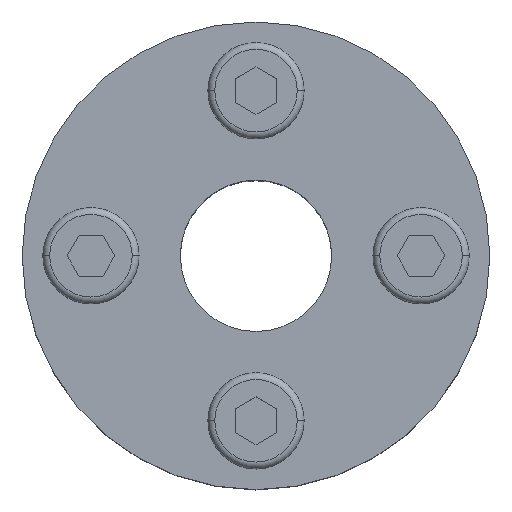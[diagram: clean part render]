
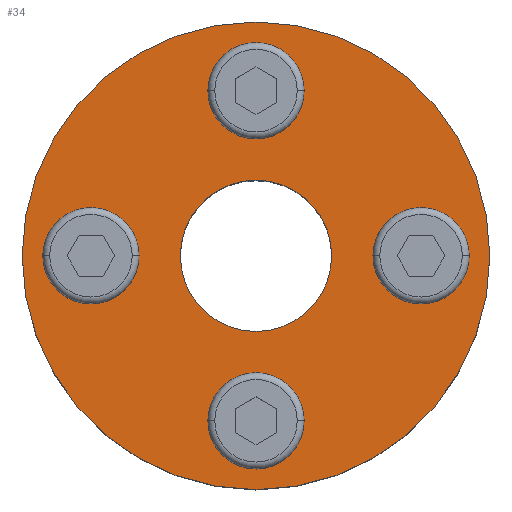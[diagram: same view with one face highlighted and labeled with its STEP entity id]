
A CAD part, top view. The second image highlights one B-rep face of the part: STEP entity #34.
In plain terms, the highlighted planar face has unit normal (0, 0, 1).
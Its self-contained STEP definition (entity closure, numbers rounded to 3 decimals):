
#16 = ORIENTED_EDGE ( 'NONE', *, *, #1409, .F. ) ;
#34 = ADVANCED_FACE ( 'NONE', ( #1622, #207, #1278, #124, #586, #833 ), #1436, .F. ) ;
#51 = ORIENTED_EDGE ( 'NONE', *, *, #818, .F. ) ;
#106 = ORIENTED_EDGE ( 'NONE', *, *, #1116, .F. ) ;
#124 = FACE_BOUND ( 'NONE', #1474, .T. ) ;
#128 = CARTESIAN_POINT ( 'NONE',  ( 12., 0., 0. ) ) ;
#133 = CIRCLE ( 'NONE', #1275, 5.5 ) ;
#175 = VERTEX_POINT ( 'NONE', #1470 ) ;
#182 = CARTESIAN_POINT ( 'NONE',  ( -3.5, 12., 0. ) ) ;
#186 = DIRECTION ( 'NONE',  ( -1., 0., 0. ) ) ;
#207 = FACE_BOUND ( 'NONE', #1064, .T. ) ;
#227 = CARTESIAN_POINT ( 'NONE',  ( 3.5, -12., 0. ) ) ;
#240 = CARTESIAN_POINT ( 'NONE',  ( -8.5, 0., 0. ) ) ;
#246 = CIRCLE ( 'NONE', #919, 3.5 ) ;
#286 = CARTESIAN_POINT ( 'NONE',  ( 0., 0., 0. ) ) ;
#289 = EDGE_LOOP ( 'NONE', ( #51, #1626 ) ) ;
#295 = CIRCLE ( 'NONE', #467, 3.5 ) ;
#355 = CIRCLE ( 'NONE', #1452, 3.5 ) ;
#359 = CARTESIAN_POINT ( 'NONE',  ( -15.5, 0., 0. ) ) ;
#374 = DIRECTION ( 'NONE',  ( -1., 0., 0. ) ) ;
#378 = AXIS2_PLACEMENT_3D ( 'NONE', #1083, #461, #842 ) ;
#402 = VERTEX_POINT ( 'NONE', #694 ) ;
#408 = DIRECTION ( 'NONE',  ( 1., 0., 0. ) ) ;
#423 = ORIENTED_EDGE ( 'NONE', *, *, #1295, .F. ) ;
#435 = EDGE_LOOP ( 'NONE', ( #760, #1195 ) ) ;
#459 = DIRECTION ( 'NONE',  ( -1., 0., 0. ) ) ;
#461 = DIRECTION ( 'NONE',  ( 0., 0., 1. ) ) ;
#467 = AXIS2_PLACEMENT_3D ( 'NONE', #1211, #698, #186 ) ;
#472 = EDGE_CURVE ( 'NONE', #1210, #402, #246, .T. ) ;
#496 = AXIS2_PLACEMENT_3D ( 'NONE', #765, #1528, #892 ) ;
#498 = CARTESIAN_POINT ( 'NONE',  ( -12., 0., 0. ) ) ;
#528 = CARTESIAN_POINT ( 'NONE',  ( -3.5, -12., 0. ) ) ;
#540 = AXIS2_PLACEMENT_3D ( 'NONE', #613, #1529, #1011 ) ;
#542 = CARTESIAN_POINT ( 'NONE',  ( -12., 0., 0. ) ) ;
#586 = FACE_BOUND ( 'NONE', #1514, .T. ) ;
#598 = CARTESIAN_POINT ( 'NONE',  ( 5.5, 0., 0. ) ) ;
#599 = VERTEX_POINT ( 'NONE', #598 ) ;
#613 = CARTESIAN_POINT ( 'NONE',  ( 0., -12., 0. ) ) ;
#617 = EDGE_CURVE ( 'NONE', #1366, #990, #1667, .T. ) ;
#625 = DIRECTION ( 'NONE',  ( 0., 0., 1. ) ) ;
#630 = CARTESIAN_POINT ( 'NONE',  ( 17., 0., 0. ) ) ;
#652 = EDGE_CURVE ( 'NONE', #402, #1210, #1466, .T. ) ;
#694 = CARTESIAN_POINT ( 'NONE',  ( 3.5, 12., 0. ) ) ;
#698 = DIRECTION ( 'NONE',  ( 0., 0., 1. ) ) ;
#727 = CARTESIAN_POINT ( 'NONE',  ( 0., 0., 0. ) ) ;
#730 = EDGE_CURVE ( 'NONE', #858, #745, #735, .T. ) ;
#735 = CIRCLE ( 'NONE', #1146, 3.5 ) ;
#744 = CIRCLE ( 'NONE', #1174, 3.5 ) ;
#745 = VERTEX_POINT ( 'NONE', #240 ) ;
#760 = ORIENTED_EDGE ( 'NONE', *, *, #472, .F. ) ;
#765 = CARTESIAN_POINT ( 'NONE',  ( 0., 0., 0. ) ) ;
#802 = DIRECTION ( 'NONE',  ( -1., 0., 0. ) ) ;
#818 = EDGE_CURVE ( 'NONE', #990, #1366, #1539, .T. ) ;
#820 = CIRCLE ( 'NONE', #1233, 5.5 ) ;
#833 = FACE_OUTER_BOUND ( 'NONE', #865, .T. ) ;
#842 = DIRECTION ( 'NONE',  ( 1., 0., 0. ) ) ;
#858 = VERTEX_POINT ( 'NONE', #359 ) ;
#865 = EDGE_LOOP ( 'NONE', ( #1489, #1453 ) ) ;
#866 = VERTEX_POINT ( 'NONE', #630 ) ;
#877 = CARTESIAN_POINT ( 'NONE',  ( 0., 12., 0. ) ) ;
#889 = DIRECTION ( 'NONE',  ( -1., 0., 0. ) ) ;
#892 = DIRECTION ( 'NONE',  ( 1., 0., 0. ) ) ;
#919 = AXIS2_PLACEMENT_3D ( 'NONE', #1096, #1238, #459 ) ;
#941 = AXIS2_PLACEMENT_3D ( 'NONE', #1250, #1508, #1646 ) ;
#990 = VERTEX_POINT ( 'NONE', #528 ) ;
#1011 = DIRECTION ( 'NONE',  ( -1., 0., 0. ) ) ;
#1029 = VERTEX_POINT ( 'NONE', #1304 ) ;
#1034 = DIRECTION ( 'NONE',  ( -1., 0., 0. ) ) ;
#1058 = VERTEX_POINT ( 'NONE', #1443 ) ;
#1064 = EDGE_LOOP ( 'NONE', ( #423, #1600 ) ) ;
#1076 = DIRECTION ( 'NONE',  ( 0., 0., 1. ) ) ;
#1083 = CARTESIAN_POINT ( 'NONE',  ( 0., 0., 0. ) ) ;
#1085 = AXIS2_PLACEMENT_3D ( 'NONE', #1416, #1424, #1034 ) ;
#1092 = AXIS2_PLACEMENT_3D ( 'NONE', #877, #1386, #1245 ) ;
#1096 = CARTESIAN_POINT ( 'NONE',  ( 0., 12., 0. ) ) ;
#1101 = DIRECTION ( 'NONE',  ( 1., 0., 0. ) ) ;
#1108 = DIRECTION ( 'NONE',  ( 0., 0., 1. ) ) ;
#1116 = EDGE_CURVE ( 'NONE', #745, #858, #744, .T. ) ;
#1146 = AXIS2_PLACEMENT_3D ( 'NONE', #498, #625, #889 ) ;
#1150 = DIRECTION ( 'NONE',  ( 0., 0., 1. ) ) ;
#1157 = EDGE_CURVE ( 'NONE', #599, #1058, #820, .T. ) ;
#1174 = AXIS2_PLACEMENT_3D ( 'NONE', #542, #1575, #802 ) ;
#1195 = ORIENTED_EDGE ( 'NONE', *, *, #652, .F. ) ;
#1210 = VERTEX_POINT ( 'NONE', #182 ) ;
#1211 = CARTESIAN_POINT ( 'NONE',  ( 12., 0., 0. ) ) ;
#1233 = AXIS2_PLACEMENT_3D ( 'NONE', #286, #1076, #408 ) ;
#1238 = DIRECTION ( 'NONE',  ( 0., 0., 1. ) ) ;
#1245 = DIRECTION ( 'NONE',  ( -1., 0., 0. ) ) ;
#1250 = CARTESIAN_POINT ( 'NONE',  ( 0., -12., 0. ) ) ;
#1258 = EDGE_CURVE ( 'NONE', #175, #866, #1264, .T. ) ;
#1264 = CIRCLE ( 'NONE', #378, 17. ) ;
#1269 = ORIENTED_EDGE ( 'NONE', *, *, #730, .F. ) ;
#1275 = AXIS2_PLACEMENT_3D ( 'NONE', #727, #1108, #1101 ) ;
#1278 = FACE_BOUND ( 'NONE', #289, .T. ) ;
#1286 = CIRCLE ( 'NONE', #496, 17. ) ;
#1295 = EDGE_CURVE ( 'NONE', #1029, #1300, #295, .T. ) ;
#1300 = VERTEX_POINT ( 'NONE', #1485 ) ;
#1304 = CARTESIAN_POINT ( 'NONE',  ( 8.5, 0., 0. ) ) ;
#1346 = ORIENTED_EDGE ( 'NONE', *, *, #1157, .F. ) ;
#1366 = VERTEX_POINT ( 'NONE', #227 ) ;
#1386 = DIRECTION ( 'NONE',  ( 0., 0., 1. ) ) ;
#1409 = EDGE_CURVE ( 'NONE', #1058, #599, #133, .T. ) ;
#1416 = CARTESIAN_POINT ( 'NONE',  ( -5.5, 0., 0. ) ) ;
#1424 = DIRECTION ( 'NONE',  ( 0., 0., -1. ) ) ;
#1436 = PLANE ( 'NONE',  #1085 ) ;
#1443 = CARTESIAN_POINT ( 'NONE',  ( -5.5, 0., 0. ) ) ;
#1452 = AXIS2_PLACEMENT_3D ( 'NONE', #128, #1150, #374 ) ;
#1453 = ORIENTED_EDGE ( 'NONE', *, *, #1258, .T. ) ;
#1461 = EDGE_CURVE ( 'NONE', #866, #175, #1286, .T. ) ;
#1466 = CIRCLE ( 'NONE', #1092, 3.5 ) ;
#1470 = CARTESIAN_POINT ( 'NONE',  ( -17., 0., 0. ) ) ;
#1474 = EDGE_LOOP ( 'NONE', ( #1269, #106 ) ) ;
#1485 = CARTESIAN_POINT ( 'NONE',  ( 15.5, 0., 0. ) ) ;
#1489 = ORIENTED_EDGE ( 'NONE', *, *, #1461, .T. ) ;
#1508 = DIRECTION ( 'NONE',  ( 0., 0., 1. ) ) ;
#1512 = EDGE_CURVE ( 'NONE', #1300, #1029, #355, .T. ) ;
#1514 = EDGE_LOOP ( 'NONE', ( #1346, #16 ) ) ;
#1528 = DIRECTION ( 'NONE',  ( 0., 0., 1. ) ) ;
#1529 = DIRECTION ( 'NONE',  ( 0., 0., 1. ) ) ;
#1539 = CIRCLE ( 'NONE', #540, 3.5 ) ;
#1575 = DIRECTION ( 'NONE',  ( 0., 0., 1. ) ) ;
#1600 = ORIENTED_EDGE ( 'NONE', *, *, #1512, .F. ) ;
#1622 = FACE_BOUND ( 'NONE', #435, .T. ) ;
#1626 = ORIENTED_EDGE ( 'NONE', *, *, #617, .F. ) ;
#1646 = DIRECTION ( 'NONE',  ( -1., 0., 0. ) ) ;
#1667 = CIRCLE ( 'NONE', #941, 3.5 ) ;
